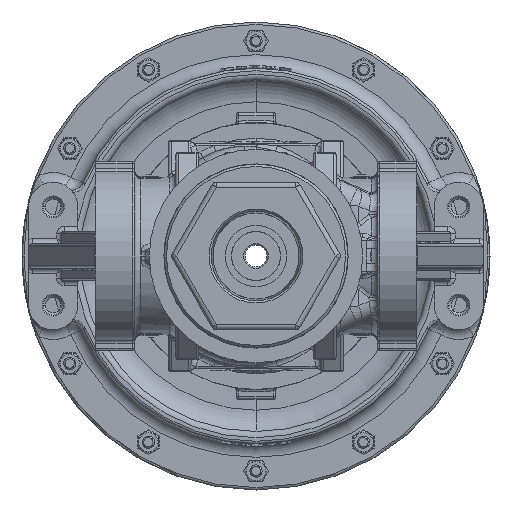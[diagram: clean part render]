
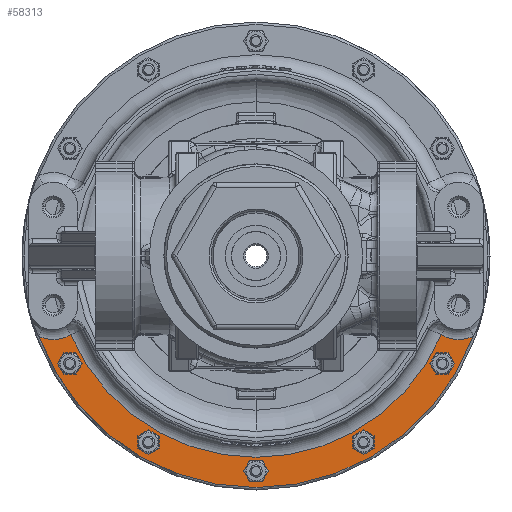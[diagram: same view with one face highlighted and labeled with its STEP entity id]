
A CAD part, front view. The second image highlights one B-rep face of the part: STEP entity #58313.
In plain terms, the highlighted planar face has unit normal (0, -1, 0) as drawn and (0, 0, -1) by its records, which use the part's own axes.
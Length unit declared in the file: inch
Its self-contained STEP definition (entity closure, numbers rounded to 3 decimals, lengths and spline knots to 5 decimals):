
#9311 = CARTESIAN_POINT ( 'NONE',  ( -3.78886, 2.1875, 0. ) ) ;
#9312 = DIRECTION ( 'NONE',  ( 0., 0., 1. ) ) ;
#9313 = DIRECTION ( 'NONE',  ( 1., 0., 0. ) ) ;
#9383 = CARTESIAN_POINT ( 'NONE',  ( -2.1875, 3.78886, 0. ) ) ;
#9384 = DIRECTION ( 'NONE',  ( 0., 0., 1. ) ) ;
#9385 = DIRECTION ( 'NONE',  ( 1., 0., 0. ) ) ;
#9447 = CARTESIAN_POINT ( 'NONE',  ( 0., 4.375, 0. ) ) ;
#9448 = DIRECTION ( 'NONE',  ( 0., 0., 1. ) ) ;
#9449 = DIRECTION ( 'NONE',  ( 1., 0., 0. ) ) ;
#9511 = CARTESIAN_POINT ( 'NONE',  ( 2.1875, 3.78886, 0. ) ) ;
#9512 = DIRECTION ( 'NONE',  ( 0., 0., 1. ) ) ;
#9513 = DIRECTION ( 'NONE',  ( 1., 0., 0. ) ) ;
#9575 = CARTESIAN_POINT ( 'NONE',  ( 3.78886, 2.1875, 0. ) ) ;
#9576 = DIRECTION ( 'NONE',  ( 0., 0., 1. ) ) ;
#9577 = DIRECTION ( 'NONE',  ( 1., 0., 0. ) ) ;
#10007 = CARTESIAN_POINT ( 'NONE',  ( 2.03469, 3.78886, 0. ) ) ;
#10452 = CARTESIAN_POINT ( 'NONE',  ( 3.94167, 2.1875, 0. ) ) ;
#10476 = CARTESIAN_POINT ( 'NONE',  ( 4.4166, 1.63637, 0. ) ) ;
#10525 = CARTESIAN_POINT ( 'NONE',  ( 3.63605, 2.1875, 0. ) ) ;
#10529 = CARTESIAN_POINT ( 'NONE',  ( -2.03469, 3.78886, 0. ) ) ;
#10626 = CARTESIAN_POINT ( 'NONE',  ( -3.63605, 2.1875, 0. ) ) ;
#10661 = CARTESIAN_POINT ( 'NONE',  ( -3.94167, 2.1875, 0. ) ) ;
#10689 = CARTESIAN_POINT ( 'NONE',  ( -0.15281, 4.375, 0. ) ) ;
#10756 = CARTESIAN_POINT ( 'NONE',  ( 2.34031, 3.78886, 0. ) ) ;
#10807 = CARTESIAN_POINT ( 'NONE',  ( 0.15281, 4.375, 0. ) ) ;
#10903 = CARTESIAN_POINT ( 'NONE',  ( 3.76847, 1.6024, 0. ) ) ;
#12141 = CARTESIAN_POINT ( 'NONE',  ( 0., 0., 0. ) ) ;
#12142 = DIRECTION ( 'NONE',  ( 0., 0., -1. ) ) ;
#12143 = DIRECTION ( 'NONE',  ( 1., 0., 0. ) ) ;
#36610 = CIRCLE ( 'NONE', #131560, 0.15281 ) ;
#36613 = CIRCLE ( 'NONE', #131559, 0.15281 ) ;
#36616 = CIRCLE ( 'NONE', #131561, 0.15281 ) ;
#36619 = CIRCLE ( 'NONE', #131562, 0.15281 ) ;
#36621 = CIRCLE ( 'NONE', #131563, 0.15281 ) ;
#36624 = CIRCLE ( 'NONE', #131564, 4.095 ) ;
#36627 = CIRCLE ( 'NONE', #131565, 0.7 ) ;
#36632 = CIRCLE ( 'NONE', #131566, 0.7 ) ;
#38024 = EDGE_CURVE ( 'NONE', #100554, #100699, #36613, .T. ) ;
#38027 = EDGE_CURVE ( 'NONE', #101046, #99732, #36610, .T. ) ;
#38030 = EDGE_CURVE ( 'NONE', #101115, #100960, #36616, .T. ) ;
#38034 = EDGE_CURVE ( 'NONE', #100706, #95457, #36619, .T. ) ;
#38037 = EDGE_CURVE ( 'NONE', #100872, #100925, #36621, .T. ) ;
#38039 = EDGE_CURVE ( 'NONE', #101245, #95605, #36624, .T. ) ;
#38042 = EDGE_CURVE ( 'NONE', #95605, #95658, #36627, .T. ) ;
#38044 = EDGE_CURVE ( 'NONE', #100606, #101245, #36632, .T. ) ;
#39372 = AXIS2_PLACEMENT_3D ( 'NONE', #9311, #9312, #9313 ) ;
#39400 = AXIS2_PLACEMENT_3D ( 'NONE', #9383, #9384, #9385 ) ;
#39428 = AXIS2_PLACEMENT_3D ( 'NONE', #9447, #9448, #9449 ) ;
#39452 = AXIS2_PLACEMENT_3D ( 'NONE', #9511, #9512, #9513 ) ;
#39476 = AXIS2_PLACEMENT_3D ( 'NONE', #9575, #9576, #9577 ) ;
#39753 = AXIS2_PLACEMENT_3D ( 'NONE', #12141, #12142, #12143 ) ;
#44356 = CARTESIAN_POINT ( 'NONE',  ( 3.78886, 2.1875, 0. ) ) ;
#44358 = DIRECTION ( 'NONE',  ( 0., 0., 1. ) ) ;
#44360 = DIRECTION ( 'NONE',  ( 1., 0., 0. ) ) ;
#44363 = CARTESIAN_POINT ( 'NONE',  ( 2.1875, 3.78886, 0. ) ) ;
#44365 = DIRECTION ( 'NONE',  ( 0., 0., 1. ) ) ;
#44367 = DIRECTION ( 'NONE',  ( 1., 0., 0. ) ) ;
#44370 = CARTESIAN_POINT ( 'NONE',  ( 0., 4.375, 0. ) ) ;
#44372 = DIRECTION ( 'NONE',  ( 0., 0., 1. ) ) ;
#44373 = DIRECTION ( 'NONE',  ( 1., 0., 0. ) ) ;
#44377 = CARTESIAN_POINT ( 'NONE',  ( -2.1875, 3.78886, 0. ) ) ;
#44378 = DIRECTION ( 'NONE',  ( 0., 0., 1. ) ) ;
#44380 = DIRECTION ( 'NONE',  ( 1., 0., 0. ) ) ;
#44383 = CARTESIAN_POINT ( 'NONE',  ( -3.78886, 2.1875, 0. ) ) ;
#44385 = DIRECTION ( 'NONE',  ( 0., 0., 1. ) ) ;
#44387 = DIRECTION ( 'NONE',  ( 1., 0., 0. ) ) ;
#44390 = CARTESIAN_POINT ( 'NONE',  ( 0., 0., 0. ) ) ;
#44392 = DIRECTION ( 'NONE',  ( 0., 0., 1. ) ) ;
#44394 = DIRECTION ( 'NONE',  ( 1., 0., 0. ) ) ;
#44397 = CARTESIAN_POINT ( 'NONE',  ( -4.125, 1., 0. ) ) ;
#44399 = DIRECTION ( 'NONE',  ( 0., 0., 1. ) ) ;
#44400 = DIRECTION ( 'NONE',  ( 1., 0., 0. ) ) ;
#44403 = CARTESIAN_POINT ( 'NONE',  ( 4.125, 1., 0. ) ) ;
#44404 = DIRECTION ( 'NONE',  ( 0., 0., 1. ) ) ;
#44405 = DIRECTION ( 'NONE',  ( 1., 0., 0. ) ) ;
#52870 = ORIENTED_EDGE ( 'NONE', *, *, #98795, .T. ) ;
#52872 = ORIENTED_EDGE ( 'NONE', *, *, #38024, .T. ) ;
#52874 = ORIENTED_EDGE ( 'NONE', *, *, #98748, .T. ) ;
#52876 = ORIENTED_EDGE ( 'NONE', *, *, #38027, .T. ) ;
#52878 = ORIENTED_EDGE ( 'NONE', *, *, #98702, .T. ) ;
#52880 = ORIENTED_EDGE ( 'NONE', *, *, #38030, .T. ) ;
#52882 = ORIENTED_EDGE ( 'NONE', *, *, #98655, .T. ) ;
#52884 = ORIENTED_EDGE ( 'NONE', *, *, #38034, .T. ) ;
#52886 = ORIENTED_EDGE ( 'NONE', *, *, #98604, .T. ) ;
#52888 = ORIENTED_EDGE ( 'NONE', *, *, #38037, .T. ) ;
#52890 = ORIENTED_EDGE ( 'NONE', *, *, #38039, .T. ) ;
#52892 = ORIENTED_EDGE ( 'NONE', *, *, #38042, .T. ) ;
#52894 = ORIENTED_EDGE ( 'NONE', *, *, #130073, .T. ) ;
#52896 = ORIENTED_EDGE ( 'NONE', *, *, #38044, .T. ) ;
#55781 = EDGE_LOOP ( 'NONE', ( #52878, #52880 ) ) ;
#55785 = EDGE_LOOP ( 'NONE', ( #52874, #52876 ) ) ;
#55791 = EDGE_LOOP ( 'NONE', ( #52882, #52884 ) ) ;
#55794 = EDGE_LOOP ( 'NONE', ( #52886, #52888 ) ) ;
#55796 = EDGE_LOOP ( 'NONE', ( #52890, #52892, #52894, #52896 ) ) ;
#58313 = ADVANCED_FACE ( 'NONE', ( #69784, #69788, #69790, #69792, #69793, #69795 ), #100191, .F. ) ;
#69784 = FACE_BOUND ( 'NONE', #90889, .T. ) ;
#69788 = FACE_BOUND ( 'NONE', #55785, .T. ) ;
#69790 = FACE_BOUND ( 'NONE', #55781, .T. ) ;
#69792 = FACE_BOUND ( 'NONE', #55791, .T. ) ;
#69793 = FACE_BOUND ( 'NONE', #55794, .T. ) ;
#69795 = FACE_OUTER_BOUND ( 'NONE', #55796, .T. ) ;
#90889 = EDGE_LOOP ( 'NONE', ( #52870, #52872 ) ) ;
#95457 = VERTEX_POINT ( 'NONE', #112249 ) ;
#95605 = VERTEX_POINT ( 'NONE', #112397 ) ;
#95658 = VERTEX_POINT ( 'NONE', #112450 ) ;
#98604 = EDGE_CURVE ( 'NONE', #100925, #100872, #137076, .T. ) ;
#98655 = EDGE_CURVE ( 'NONE', #95457, #100706, #137092, .T. ) ;
#98702 = EDGE_CURVE ( 'NONE', #100960, #101115, #137108, .T. ) ;
#98748 = EDGE_CURVE ( 'NONE', #99732, #101046, #137124, .T. ) ;
#98795 = EDGE_CURVE ( 'NONE', #100699, #100554, #137140, .T. ) ;
#99732 = VERTEX_POINT ( 'NONE', #10007 ) ;
#100191 = PLANE ( 'NONE',  #100864 ) ;
#100200 = CARTESIAN_POINT ( 'NONE',  ( 0., 4.76, 0. ) ) ;
#100217 = DIRECTION ( 'NONE',  ( 0., 0., 1. ) ) ;
#100219 = DIRECTION ( 'NONE',  ( 1., 0., 0. ) ) ;
#100554 = VERTEX_POINT ( 'NONE', #10452 ) ;
#100606 = VERTEX_POINT ( 'NONE', #10476 ) ;
#100699 = VERTEX_POINT ( 'NONE', #10525 ) ;
#100706 = VERTEX_POINT ( 'NONE', #10529 ) ;
#100864 = AXIS2_PLACEMENT_3D ( 'NONE', #100200, #100217, #100219 ) ;
#100872 = VERTEX_POINT ( 'NONE', #10626 ) ;
#100925 = VERTEX_POINT ( 'NONE', #10661 ) ;
#100960 = VERTEX_POINT ( 'NONE', #10689 ) ;
#101046 = VERTEX_POINT ( 'NONE', #10756 ) ;
#101115 = VERTEX_POINT ( 'NONE', #10807 ) ;
#101245 = VERTEX_POINT ( 'NONE', #10903 ) ;
#112249 = CARTESIAN_POINT ( 'NONE',  ( -2.34031, 3.78886, 0. ) ) ;
#112397 = CARTESIAN_POINT ( 'NONE',  ( -3.76847, 1.6024, 0. ) ) ;
#112450 = CARTESIAN_POINT ( 'NONE',  ( -4.4166, 1.63637, 0. ) ) ;
#130073 = EDGE_CURVE ( 'NONE', #95658, #100606, #137298, .T. ) ;
#131559 = AXIS2_PLACEMENT_3D ( 'NONE', #44356, #44358, #44360 ) ;
#131560 = AXIS2_PLACEMENT_3D ( 'NONE', #44363, #44365, #44367 ) ;
#131561 = AXIS2_PLACEMENT_3D ( 'NONE', #44370, #44372, #44373 ) ;
#131562 = AXIS2_PLACEMENT_3D ( 'NONE', #44377, #44378, #44380 ) ;
#131563 = AXIS2_PLACEMENT_3D ( 'NONE', #44383, #44385, #44387 ) ;
#131564 = AXIS2_PLACEMENT_3D ( 'NONE', #44390, #44392, #44394 ) ;
#131565 = AXIS2_PLACEMENT_3D ( 'NONE', #44397, #44399, #44400 ) ;
#131566 = AXIS2_PLACEMENT_3D ( 'NONE', #44403, #44404, #44405 ) ;
#137076 = CIRCLE ( 'NONE', #39372, 0.15281 ) ;
#137092 = CIRCLE ( 'NONE', #39400, 0.15281 ) ;
#137108 = CIRCLE ( 'NONE', #39428, 0.15281 ) ;
#137124 = CIRCLE ( 'NONE', #39452, 0.15281 ) ;
#137140 = CIRCLE ( 'NONE', #39476, 0.15281 ) ;
#137298 = CIRCLE ( 'NONE', #39753, 4.71 ) ;
